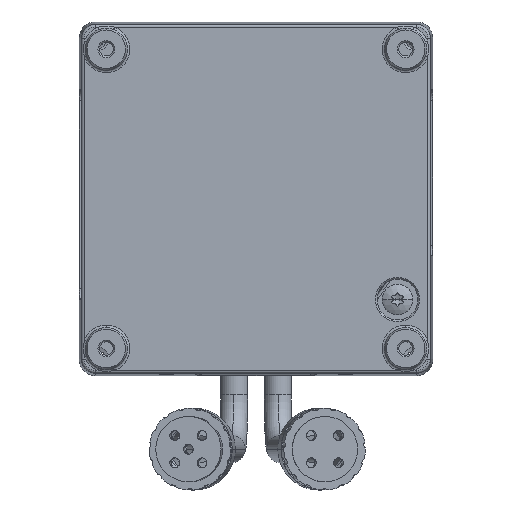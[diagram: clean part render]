
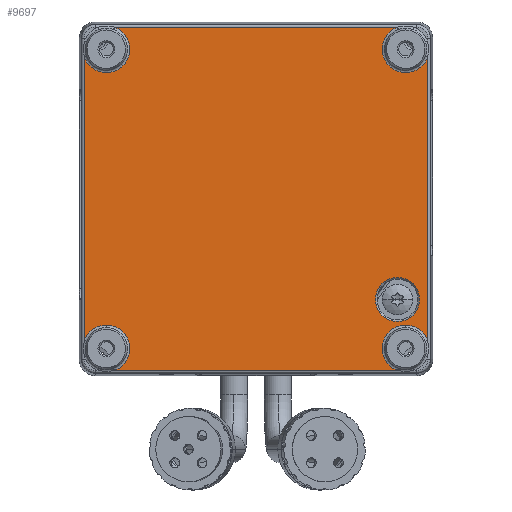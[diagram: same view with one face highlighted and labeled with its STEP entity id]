
A CAD part, front view. The second image highlights one B-rep face of the part: STEP entity #9697.
In plain terms, the highlighted planar face has unit normal (0, -1, 0).
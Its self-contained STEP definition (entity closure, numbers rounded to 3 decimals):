
#39 = CARTESIAN_POINT ( 'NONE',  ( 27.5, 0., -23.181 ) ) ;
#118 = ORIENTED_EDGE ( 'NONE', *, *, #55149, .T. ) ;
#694 = ORIENTED_EDGE ( 'NONE', *, *, #36184, .T. ) ;
#1144 = CARTESIAN_POINT ( 'NONE',  ( -31.555, 0., 26.014 ) ) ;
#1719 = CARTESIAN_POINT ( 'NONE',  ( 0., 0., -31.555 ) ) ;
#2043 = CARTESIAN_POINT ( 'NONE',  ( -26.014, 0., 31.555 ) ) ;
#2302 = DIRECTION ( 'NONE',  ( 1., 0., 0. ) ) ;
#2331 = DIRECTION ( 'NONE',  ( 0., 1., 0. ) ) ;
#2594 = LINE ( 'NONE', #1719, #27413 ) ;
#2818 = DIRECTION ( 'NONE',  ( 0., 1., 0. ) ) ;
#3287 = VECTOR ( 'NONE', #56587, 1000. ) ;
#3890 = CARTESIAN_POINT ( 'NONE',  ( 26.014, 0., -31.555 ) ) ;
#4016 = EDGE_CURVE ( 'NONE', #56527, #37764, #4066, .T. ) ;
#4066 = CIRCLE ( 'NONE', #17367, 4.319 ) ;
#4458 = DIRECTION ( 'NONE',  ( 0., 1., 0. ) ) ;
#4563 = VECTOR ( 'NONE', #33861, 1000. ) ;
#6431 = FACE_OUTER_BOUND ( 'NONE', #29725, .T. ) ;
#6613 = LINE ( 'NONE', #6907, #23351 ) ;
#6907 = CARTESIAN_POINT ( 'NONE',  ( 31.555, 0., 0. ) ) ;
#7306 = PLANE ( 'NONE',  #18568 ) ;
#7388 = CARTESIAN_POINT ( 'NONE',  ( -31.555, 0., -26.014 ) ) ;
#7896 = CARTESIAN_POINT ( 'NONE',  ( 26., 0., -14.45 ) ) ;
#8897 = ORIENTED_EDGE ( 'NONE', *, *, #52181, .T. ) ;
#9697 = ADVANCED_FACE ( 'NONE', ( #6431, #48385 ), #7306, .F. ) ;
#9727 = CARTESIAN_POINT ( 'NONE',  ( 26., 0., -22.55 ) ) ;
#9895 = DIRECTION ( 'NONE',  ( 0., 1., 0. ) ) ;
#10410 = VERTEX_POINT ( 'NONE', #39 ) ;
#10657 = VERTEX_POINT ( 'NONE', #1144 ) ;
#11200 = ORIENTED_EDGE ( 'NONE', *, *, #31848, .T. ) ;
#11836 = CARTESIAN_POINT ( 'NONE',  ( -27.5, 0., -23.181 ) ) ;
#12471 = DIRECTION ( 'NONE',  ( 0., 0., 1. ) ) ;
#13036 = CARTESIAN_POINT ( 'NONE',  ( 26.014, 0., 31.555 ) ) ;
#14264 = CIRCLE ( 'NONE', #47550, 4.319 ) ;
#14378 = CARTESIAN_POINT ( 'NONE',  ( 26., 0., -18.5 ) ) ;
#14925 = DIRECTION ( 'NONE',  ( 0., 0., 1. ) ) ;
#15281 = VERTEX_POINT ( 'NONE', #54365 ) ;
#15496 = CARTESIAN_POINT ( 'NONE',  ( 27.5, 0., -27.5 ) ) ;
#15684 = CARTESIAN_POINT ( 'NONE',  ( 0., 0., 31.555 ) ) ;
#15773 = CIRCLE ( 'NONE', #23364, 4.05 ) ;
#16225 = CARTESIAN_POINT ( 'NONE',  ( 0., 0., 0. ) ) ;
#16355 = CARTESIAN_POINT ( 'NONE',  ( 31.555, 0., 26.014 ) ) ;
#17254 = VERTEX_POINT ( 'NONE', #2043 ) ;
#17367 = AXIS2_PLACEMENT_3D ( 'NONE', #45142, #49359, #44852 ) ;
#17432 = CIRCLE ( 'NONE', #31695, 4.05 ) ;
#17652 = CARTESIAN_POINT ( 'NONE',  ( -27.5, 0., -27.5 ) ) ;
#18173 = CIRCLE ( 'NONE', #23850, 4.319 ) ;
#18568 = AXIS2_PLACEMENT_3D ( 'NONE', #16225, #2818, #47205 ) ;
#18658 = EDGE_LOOP ( 'NONE', ( #46559, #8897 ) ) ;
#20480 = EDGE_CURVE ( 'NONE', #10657, #56466, #38136, .T. ) ;
#20659 = AXIS2_PLACEMENT_3D ( 'NONE', #15496, #42018, #14925 ) ;
#21220 = DIRECTION ( 'NONE',  ( 0., 1., 0. ) ) ;
#22190 = VERTEX_POINT ( 'NONE', #3890 ) ;
#22417 = ORIENTED_EDGE ( 'NONE', *, *, #49536, .T. ) ;
#22901 = EDGE_CURVE ( 'NONE', #15281, #44801, #6613, .T. ) ;
#23351 = VECTOR ( 'NONE', #56919, 1000. ) ;
#23364 = AXIS2_PLACEMENT_3D ( 'NONE', #44311, #41054, #44905 ) ;
#23850 = AXIS2_PLACEMENT_3D ( 'NONE', #17652, #21220, #40007 ) ;
#24728 = CARTESIAN_POINT ( 'NONE',  ( -31.555, 0., 0. ) ) ;
#24968 = CARTESIAN_POINT ( 'NONE',  ( 27.5, 0., -27.5 ) ) ;
#26180 = CARTESIAN_POINT ( 'NONE',  ( 27.5, 0., 27.5 ) ) ;
#26454 = CIRCLE ( 'NONE', #28379, 4.319 ) ;
#26629 = EDGE_CURVE ( 'NONE', #45155, #31241, #15773, .T. ) ;
#27062 = DIRECTION ( 'NONE',  ( 0., 0., 1. ) ) ;
#27413 = VECTOR ( 'NONE', #2302, 1000. ) ;
#27746 = CARTESIAN_POINT ( 'NONE',  ( -26.014, 0., -31.555 ) ) ;
#28047 = DIRECTION ( 'NONE',  ( 0., 0., 1. ) ) ;
#28379 = AXIS2_PLACEMENT_3D ( 'NONE', #43541, #4458, #27062 ) ;
#29725 = EDGE_LOOP ( 'NONE', ( #118, #35245, #46769, #11200, #41692, #48369, #35568, #22417, #29840, #694 ) ) ;
#29840 = ORIENTED_EDGE ( 'NONE', *, *, #4016, .T. ) ;
#30036 = EDGE_CURVE ( 'NONE', #50860, #17254, #33290, .T. ) ;
#31241 = VERTEX_POINT ( 'NONE', #7896 ) ;
#31695 = AXIS2_PLACEMENT_3D ( 'NONE', #14378, #9895, #28047 ) ;
#31848 = EDGE_CURVE ( 'NONE', #44801, #50860, #14264, .T. ) ;
#33290 = LINE ( 'NONE', #15684, #4563 ) ;
#33861 = DIRECTION ( 'NONE',  ( -1., 0., 0. ) ) ;
#35245 = ORIENTED_EDGE ( 'NONE', *, *, #56898, .T. ) ;
#35568 = ORIENTED_EDGE ( 'NONE', *, *, #20480, .T. ) ;
#36184 = EDGE_CURVE ( 'NONE', #37764, #22190, #2594, .T. ) ;
#37764 = VERTEX_POINT ( 'NONE', #27746 ) ;
#38136 = LINE ( 'NONE', #24728, #3287 ) ;
#40007 = DIRECTION ( 'NONE',  ( 0., 0., 1. ) ) ;
#40181 = EDGE_CURVE ( 'NONE', #17254, #10657, #26454, .T. ) ;
#41054 = DIRECTION ( 'NONE',  ( 0., 1., 0. ) ) ;
#41374 = CIRCLE ( 'NONE', #48970, 4.319 ) ;
#41692 = ORIENTED_EDGE ( 'NONE', *, *, #30036, .T. ) ;
#42018 = DIRECTION ( 'NONE',  ( 0., 1., 0. ) ) ;
#43541 = CARTESIAN_POINT ( 'NONE',  ( -27.5, 0., 27.5 ) ) ;
#44311 = CARTESIAN_POINT ( 'NONE',  ( 26., 0., -18.5 ) ) ;
#44329 = DIRECTION ( 'NONE',  ( 0., 0., 1. ) ) ;
#44801 = VERTEX_POINT ( 'NONE', #16355 ) ;
#44852 = DIRECTION ( 'NONE',  ( 0., 0., 1. ) ) ;
#44905 = DIRECTION ( 'NONE',  ( 0., 0., 1. ) ) ;
#45142 = CARTESIAN_POINT ( 'NONE',  ( -27.5, 0., -27.5 ) ) ;
#45155 = VERTEX_POINT ( 'NONE', #9727 ) ;
#46559 = ORIENTED_EDGE ( 'NONE', *, *, #26629, .T. ) ;
#46769 = ORIENTED_EDGE ( 'NONE', *, *, #22901, .T. ) ;
#47205 = DIRECTION ( 'NONE',  ( 0., 0., 1. ) ) ;
#47276 = CIRCLE ( 'NONE', #20659, 4.319 ) ;
#47550 = AXIS2_PLACEMENT_3D ( 'NONE', #26180, #53340, #44329 ) ;
#48369 = ORIENTED_EDGE ( 'NONE', *, *, #40181, .T. ) ;
#48385 = FACE_BOUND ( 'NONE', #18658, .T. ) ;
#48970 = AXIS2_PLACEMENT_3D ( 'NONE', #24968, #2331, #12471 ) ;
#49359 = DIRECTION ( 'NONE',  ( 0., 1., 0. ) ) ;
#49536 = EDGE_CURVE ( 'NONE', #56466, #56527, #18173, .T. ) ;
#50860 = VERTEX_POINT ( 'NONE', #13036 ) ;
#52181 = EDGE_CURVE ( 'NONE', #31241, #45155, #17432, .T. ) ;
#53340 = DIRECTION ( 'NONE',  ( 0., 1., 0. ) ) ;
#54365 = CARTESIAN_POINT ( 'NONE',  ( 31.555, 0., -26.014 ) ) ;
#55149 = EDGE_CURVE ( 'NONE', #22190, #10410, #41374, .T. ) ;
#56466 = VERTEX_POINT ( 'NONE', #7388 ) ;
#56527 = VERTEX_POINT ( 'NONE', #11836 ) ;
#56587 = DIRECTION ( 'NONE',  ( 0., 0., -1. ) ) ;
#56898 = EDGE_CURVE ( 'NONE', #10410, #15281, #47276, .T. ) ;
#56919 = DIRECTION ( 'NONE',  ( 0., 0., 1. ) ) ;
